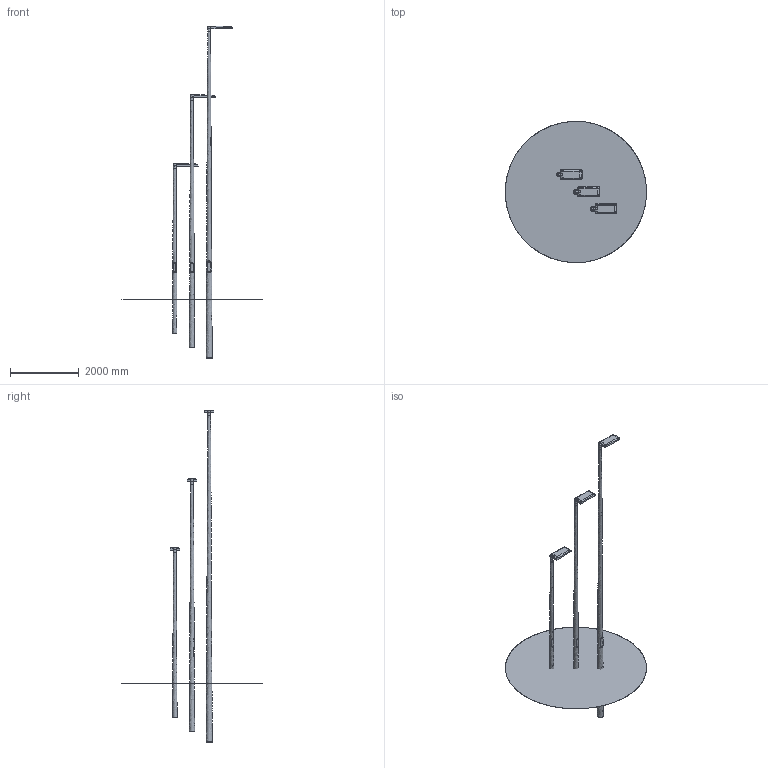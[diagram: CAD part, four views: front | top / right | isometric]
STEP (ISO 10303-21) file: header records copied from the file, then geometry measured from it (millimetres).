
FILE_DESCRIPTION (('STEP'), '1');
FILE_NAME ('D:\Clients\Spunlite Poles\ENERGYLIGHT RTP 4m 6m 8m.stp', '2026-07-23T10:02:52', ('Unknown'), ('Unknown'), 'HarmonyWare STEP v2.1.9', 'Vectorworks', '');
FILE_SCHEMA (('CONFIG_CONTROL_DESIGN'));
Bounding box: 4107.28 x 4110.99 x 9654.96 mm (x, y, z)
Volume: 45757052.5 mm3; surface area: 44342146.1 mm2
Topology: 5 solids, 202 shells, 378 faces, 1424 edges, 1214 vertices
Faces by surface type: bspline 378
Entity records: 47195 total; most frequent: CARTESIAN_POINT 39602, ORIENTED_EDGE 1952, EDGE_CURVE 1415, B_SPLINE_CURVE_WITH_KNOTS 1226, VERTEX_POINT 1214, EDGE_LOOP 413, FACE_OUTER_BOUND 378, ADVANCED_FACE 378
